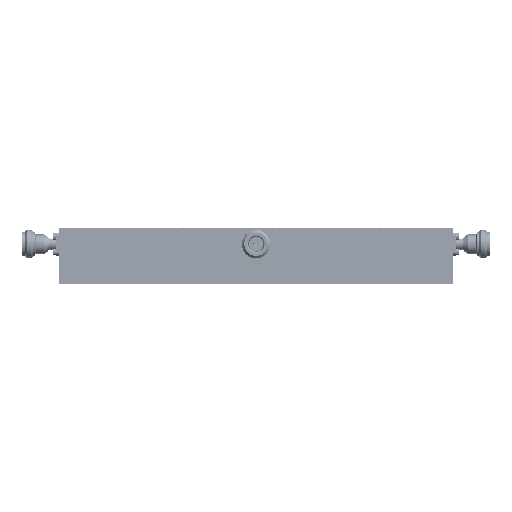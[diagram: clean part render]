
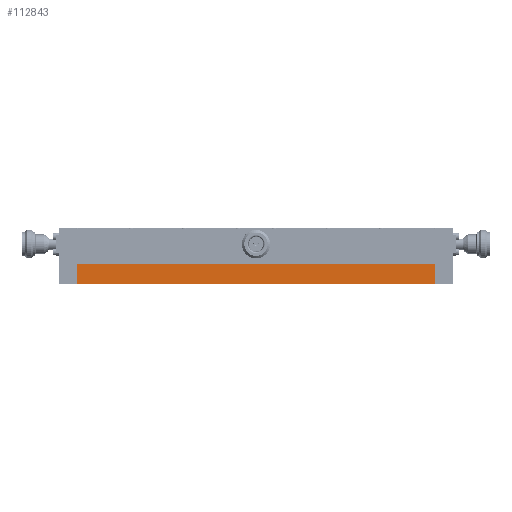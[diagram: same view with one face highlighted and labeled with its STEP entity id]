
A CAD part, front view. The second image highlights one B-rep face of the part: STEP entity #112843.
In plain terms, the highlighted planar face has unit normal (0, -1, 0).
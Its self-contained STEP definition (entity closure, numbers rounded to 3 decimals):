
#3541=PLANE('',#119035);
#12225=LINE('',#163998,#19722);
#12228=LINE('',#164004,#19725);
#12229=LINE('',#164007,#19726);
#12230=LINE('',#164008,#19727);
#19722=VECTOR('',#137999,1000.);
#19725=VECTOR('',#138004,1000.);
#19726=VECTOR('',#138005,1000.);
#19727=VECTOR('',#138006,1000.);
#37839=ORIENTED_EDGE('',*,*,#49945,.F.);
#37840=ORIENTED_EDGE('',*,*,#49946,.T.);
#37841=ORIENTED_EDGE('',*,*,#49942,.T.);
#37842=ORIENTED_EDGE('',*,*,#49947,.F.);
#49942=EDGE_CURVE('',#57672,#57673,#12225,.T.);
#49945=EDGE_CURVE('',#57674,#57675,#12228,.T.);
#49946=EDGE_CURVE('',#57674,#57672,#12229,.T.);
#49947=EDGE_CURVE('',#57675,#57673,#12230,.T.);
#57672=VERTEX_POINT('',#163999);
#57673=VERTEX_POINT('',#164000);
#57674=VERTEX_POINT('',#164005);
#57675=VERTEX_POINT('',#164006);
#65589=EDGE_LOOP('',(#37839,#37840,#37841,#37842));
#72244=FACE_BOUND('',#65589,.T.);
#112843=ADVANCED_FACE('',(#72244),#3541,.F.);
#119035=AXIS2_PLACEMENT_3D('',#164003,#138002,#138003);
#137999=DIRECTION('',(1.,0.,0.));
#138002=DIRECTION('',(0.,1.,0.));
#138003=DIRECTION('',(0.,0.,1.));
#138004=DIRECTION('',(1.,0.,0.));
#138005=DIRECTION('',(0.,0.,-1.));
#138006=DIRECTION('',(0.,0.,-1.));
#163998=CARTESIAN_POINT('',(-110.,-62.05,-15.));
#163999=CARTESIAN_POINT('',(-100.,-62.05,-15.));
#164000=CARTESIAN_POINT('',(100.,-62.05,-15.));
#164003=CARTESIAN_POINT('',(-110.,-62.05,-4.));
#164004=CARTESIAN_POINT('',(-110.,-62.05,-4.));
#164005=CARTESIAN_POINT('',(-100.,-62.05,-4.));
#164006=CARTESIAN_POINT('',(100.,-62.05,-4.));
#164007=CARTESIAN_POINT('',(-100.,-62.05,-4.));
#164008=CARTESIAN_POINT('',(100.,-62.05,-4.));
